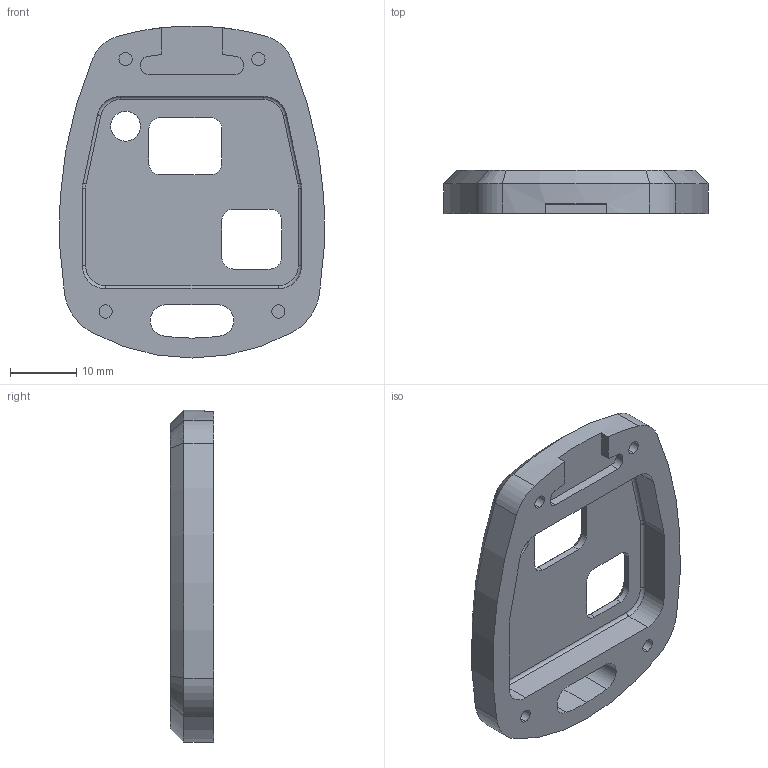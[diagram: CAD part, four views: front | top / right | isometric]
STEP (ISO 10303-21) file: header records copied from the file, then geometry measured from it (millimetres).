
FILE_DESCRIPTION (( 'STEP AP203' ), '1' );
FILE_NAME ('KeyCasing-RP-Cover.STEP', '2023-10-08T21:42:40', ( '' ), ( '' ), 'SwSTEP 2.0', 'SolidWorks 2013', '' );
FILE_SCHEMA (( 'CONFIG_CONTROL_DESIGN' ));
Length unit declared in the file: millimetre
Products named in the file (1): KeyCasing-RP-Cover
Bounding box: 39.85 x 6.5 x 50 mm (x, y, z)
Volume: 5887.4 mm3; surface area: 4730.7 mm2
Topology: 1 solids, 1 shells, 116 faces, 288 edges, 177 vertices
Faces by surface type: cylinder 50, plane 38, cone 19, torus 9
Entity records: 3545 total; most frequent: DIRECTION 654, CARTESIAN_POINT 592, ORIENTED_EDGE 576, EDGE_CURVE 288, AXIS2_PLACEMENT_3D 251, VERTEX_POINT 177, LINE 152, VECTOR 152
